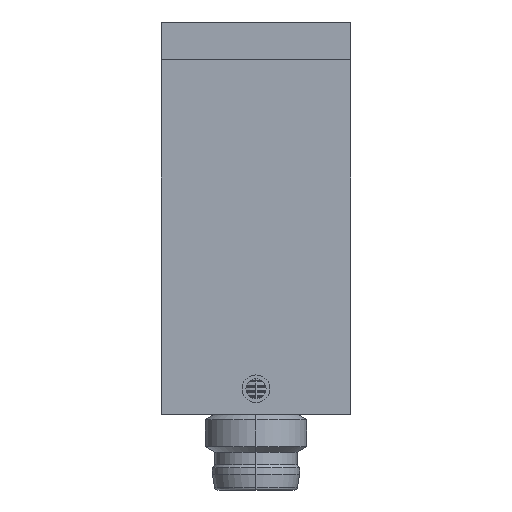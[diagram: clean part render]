
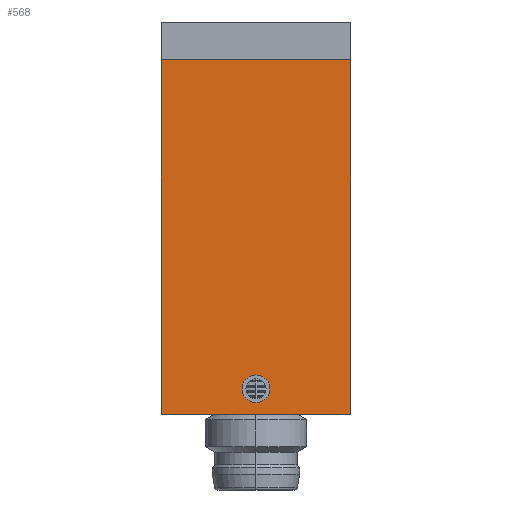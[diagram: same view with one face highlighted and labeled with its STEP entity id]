
A CAD part, left-side view. The second image highlights one B-rep face of the part: STEP entity #568.
In plain terms, the highlighted planar face has unit normal (-1, 0, 0).
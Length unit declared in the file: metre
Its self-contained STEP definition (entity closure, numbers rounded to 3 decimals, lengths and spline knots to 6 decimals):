
#568=ADVANCED_FACE('3:5851',(#1055,#1056),#1057,.T.);
#1055=FACE_BOUND('',#1672,.T.);
#1056=FACE_OUTER_BOUND('',#1673,.T.);
#1057=PLANE('',#1674);
#1672=EDGE_LOOP('',(#2941,#2942));
#1673=EDGE_LOOP('',(#2943,#2944,#2945,#2946));
#1674=AXIS2_PLACEMENT_3D('',#2947,#2948,#2949);
#2941=ORIENTED_EDGE('',*,*,#4354,.T.);
#2942=ORIENTED_EDGE('',*,*,#4355,.T.);
#2943=ORIENTED_EDGE('',*,*,#4380,.F.);
#2944=ORIENTED_EDGE('',*,*,#4371,.F.);
#2945=ORIENTED_EDGE('',*,*,#4384,.F.);
#2946=ORIENTED_EDGE('',*,*,#4382,.F.);
#2947=CARTESIAN_POINT('',(-0.0645,0.0055,0.0155));
#2948=DIRECTION('',(-1.0,0.,0.0));
#2949=DIRECTION('',(0.0,0.0,1.0));
#4354=EDGE_CURVE('3:5857',#5166,#5170,#5172,.T.);
#4355=EDGE_CURVE('3:5857',#5170,#5166,#5173,.T.);
#4371=EDGE_CURVE('3:5905',#5197,#5198,#5199,.T.);
#4380=EDGE_CURVE('3:5932',#5198,#5212,#5213,.T.);
#4382=EDGE_CURVE('3:5938',#5212,#5215,#5216,.T.);
#4384=EDGE_CURVE('3:5944',#5215,#5197,#5218,.T.);
#5166=VERTEX_POINT('',#6385);
#5170=VERTEX_POINT('',#6390);
#5172=CIRCLE('',#6393,0.0011);
#5173=CIRCLE('',#6394,0.0011);
#5197=VERTEX_POINT('',#6428);
#5198=VERTEX_POINT('',#6429);
#5199=LINE('',#6430,#6431);
#5212=VERTEX_POINT('',#6452);
#5213=LINE('',#6453,#6454);
#5215=VERTEX_POINT('',#6457);
#5216=LINE('',#6458,#6459);
#5218=LINE('',#6462,#6463);
#6385=CARTESIAN_POINT('',(-0.0645,0.0011,0.002));
#6390=CARTESIAN_POINT('',(-0.0645,-0.0011,0.002));
#6393=AXIS2_PLACEMENT_3D('',#7610,#7611,#7612);
#6394=AXIS2_PLACEMENT_3D('',#7613,#7614,#7615);
#6428=CARTESIAN_POINT('',(-0.0645,0.0075,0.028));
#6429=CARTESIAN_POINT('',(-0.0645,-0.0075,0.028));
#6430=CARTESIAN_POINT('',(-0.0645,-0.0075,0.028));
#6431=VECTOR('',#7641,1.0);
#6452=CARTESIAN_POINT('',(-0.0645,-0.0075,0.0));
#6453=CARTESIAN_POINT('',(-0.0645,-0.0075,0.0));
#6454=VECTOR('',#7650,1.0);
#6457=CARTESIAN_POINT('',(-0.0645,0.0075,0.0));
#6458=CARTESIAN_POINT('',(-0.0645,0.0075,0.0));
#6459=VECTOR('',#7652,1.0);
#6462=CARTESIAN_POINT('',(-0.0645,0.0075,0.028));
#6463=VECTOR('',#7654,1.0);
#7610=CARTESIAN_POINT('',(-0.0645,0.,0.002));
#7611=DIRECTION('',(1.0,0.,0.0));
#7612=DIRECTION('',(0.,1.0,0.0));
#7613=CARTESIAN_POINT('',(-0.0645,0.,0.002));
#7614=DIRECTION('',(1.0,0.,0.0));
#7615=DIRECTION('',(0.,1.0,0.0));
#7641=DIRECTION('',(0.,-1.0,0.0));
#7650=DIRECTION('',(0.,0.,-1.0));
#7652=DIRECTION('',(0.,1.0,0.0));
#7654=DIRECTION('',(0.0,0.0,1.0));
